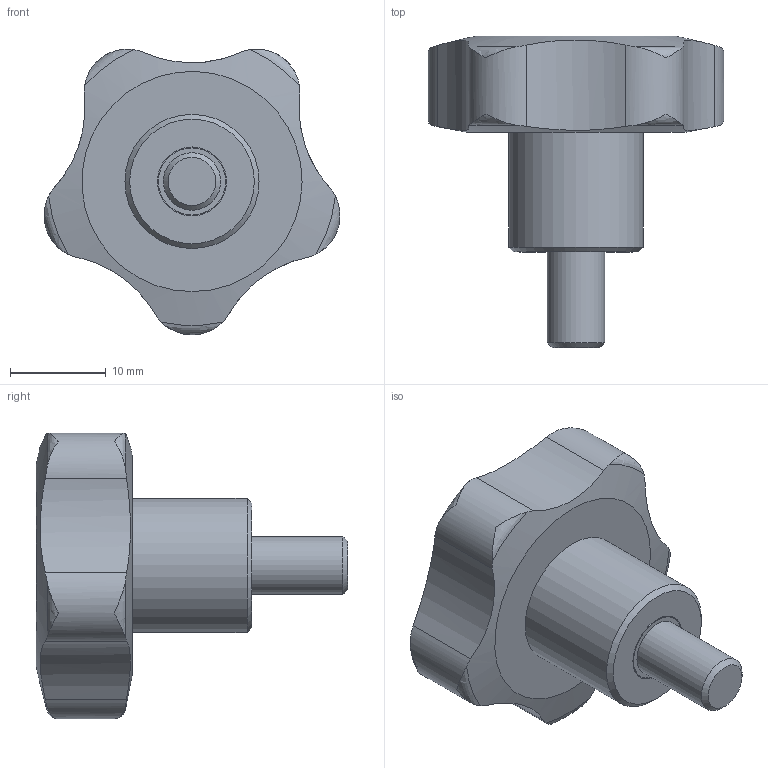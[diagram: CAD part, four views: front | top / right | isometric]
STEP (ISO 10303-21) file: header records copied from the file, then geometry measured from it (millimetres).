
FILE_DESCRIPTION( ( 'STEP AP203' ), '1' );
FILE_NAME( 'C:/Temp/Ganter_Step_05_03_2020/data/2_2/gn_5337_4/gn_5337_4_s/Star knob GN 5337.4-32-M6-10.stp', '2020-03-05T12:09:41', ( 'License CC BY-ND 4.0' ), ( 'CADENAS' ), ' ', 'PARTsolutions', ' ' );
FILE_SCHEMA( ( 'CONFIG_CONTROL_DESIGN' ) );
Length unit declared in the file: millimetre
Products named in the file (1): _Star knob GN 5337.4-32-M6-10
Bounding box: 30.87 x 32.5 x 29.8 mm (x, y, z)
Volume: 8098.2 mm3; surface area: 2821.8 mm2
Topology: 1 solids, 1 shells, 34 faces, 90 edges, 61 vertices
Faces by surface type: cylinder 14, torus 10, plane 5, cone 3, bspline 1, sphere 1
Full cylindrical faces by diameter (mm): 6 x1, 7 x1, 7.2 x1, 14 x1
Entity records: 1437 total; most frequent: CARTESIAN_POINT 674, ORIENTED_EDGE 154, DIRECTION 122, EDGE_CURVE 77, VERTEX_POINT 58, AXIS2_PLACEMENT_3D 56, EDGE_LOOP 46, B_SPLINE_CURVE_WITH_KNOTS 45
